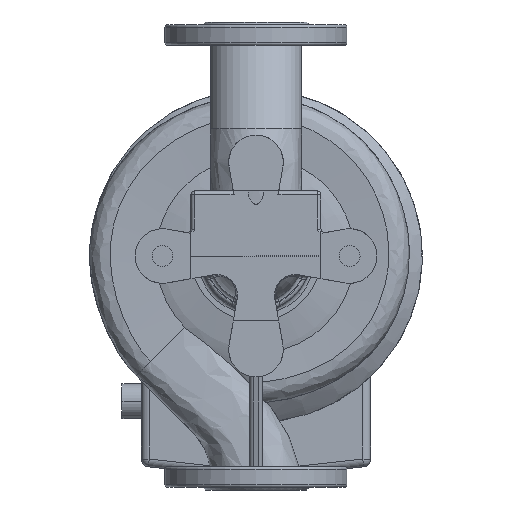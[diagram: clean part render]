
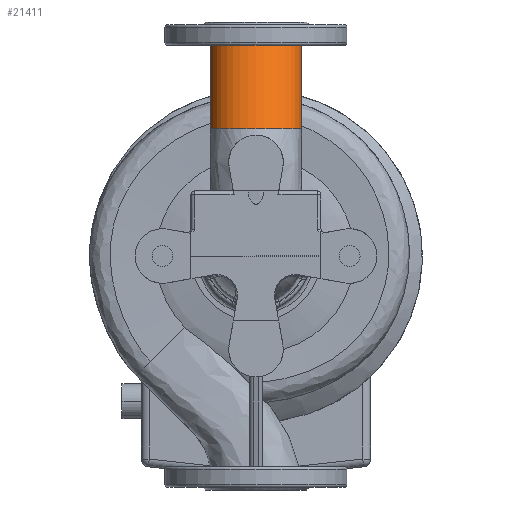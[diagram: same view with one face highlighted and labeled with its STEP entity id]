
A CAD part, front view. The second image highlights one B-rep face of the part: STEP entity #21411.
In plain terms, the highlighted free-form (B-spline) face has degree [3, 1] with [7, 2] control points.
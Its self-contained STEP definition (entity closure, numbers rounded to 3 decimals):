
#140 = CARTESIAN_POINT ( 'NONE',  ( 35., 0., 162. ) ) ;
#222 = B_SPLINE_CURVE_WITH_KNOTS ( 'NONE', 1,
 ( #6000, #9930 ),
 .UNSPECIFIED., .F., .F.,
 ( 2, 2 ),
 ( 0., 1. ),
 .UNSPECIFIED. ) ;
#280 = CARTESIAN_POINT ( 'NONE',  ( -35., -44.909, 97.864 ) ) ;
#337 = EDGE_CURVE ( 'NONE', #4610, #10266, #24713, .T. ) ;
#652 = CARTESIAN_POINT ( 'NONE',  ( -35., -44.909, 97.864 ) ) ;
#670 = CARTESIAN_POINT ( 'NONE',  ( 35., -44.909, 97.864 ) ) ;
#2302 = CARTESIAN_POINT ( 'NONE',  ( -35., -114.909, 97.864 ) ) ;
#2693 = CARTESIAN_POINT ( 'NONE',  ( -35., 70., 162. ) ) ;
#4324 = CARTESIAN_POINT ( 'NONE',  ( -35., 0., 162. ) ) ;
#4610 = VERTEX_POINT ( 'NONE', #652 ) ;
#4727 = CARTESIAN_POINT ( 'NONE',  ( 35., -114.909, 97.864 ) ) ;
#5287 = CARTESIAN_POINT ( 'NONE',  ( -35., 0., 162. ) ) ;
#5392 = DIRECTION ( 'NONE',  ( 0., 0., -1. ) ) ;
#5871 = EDGE_CURVE ( 'NONE', #6154, #10266, #15761, .T. ) ;
#6000 = CARTESIAN_POINT ( 'NONE',  ( 35., -44.909, 97.864 ) ) ;
#6154 = VERTEX_POINT ( 'NONE', #20975 ) ;
#6500 = CARTESIAN_POINT ( 'NONE',  ( 35., 70., 162. ) ) ;
#7098 = ORIENTED_EDGE ( 'NONE', *, *, #5871, .T. ) ;
#8680 = AXIS2_PLACEMENT_3D ( 'NONE', #9589, #5392, #26244 ) ;
#8934 = CARTESIAN_POINT ( 'NONE',  ( -35., -70., 162. ) ) ;
#9589 = CARTESIAN_POINT ( 'NONE',  ( 0., -44.909, 97.864 ) ) ;
#9930 = CARTESIAN_POINT ( 'NONE',  ( 35., 0., 162. ) ) ;
#10266 = VERTEX_POINT ( 'NONE', #5287 ) ;
#10587 = DIRECTION ( 'NONE',  ( 0., 0., -1. ) ) ;
#12596 = CARTESIAN_POINT ( 'NONE',  ( 0., 0., 162. ) ) ;
#12970 = CARTESIAN_POINT ( 'NONE',  ( -35., 0., 162. ) ) ;
#14008 = AXIS2_PLACEMENT_3D ( 'NONE', #12596, #10587, #18855 ) ;
#14141 = CARTESIAN_POINT ( 'NONE',  ( -35., -44.909, 97.864 ) ) ;
#14427 = ORIENTED_EDGE ( 'NONE', *, *, #19510, .T. ) ;
#14611 = ORIENTED_EDGE ( 'NONE', *, *, #337, .F. ) ;
#15137 = CARTESIAN_POINT ( 'NONE',  ( -35., 25.091, 97.864 ) ) ;
#15311 = VERTEX_POINT ( 'NONE', #19698 ) ;
#15761 = CIRCLE ( 'NONE', #14008, 35. ) ;
#15858 = EDGE_LOOP ( 'NONE', ( #24885, #14427, #7098, #14611 ) ) ;
#16183 = CARTESIAN_POINT ( 'NONE',  ( -35., 0., 162. ) ) ;
#16882 = CIRCLE ( 'NONE', #8680, 35. ) ;
#16911 = CARTESIAN_POINT ( 'NONE',  ( -35., -44.909, 97.864 ) ) ;
#17097 =( BOUNDED_SURFACE ( )  B_SPLINE_SURFACE ( 3, 1, ( 
 ( #280, #4324 ),
 ( #15137, #2693 ),
 ( #19215, #6500 ),
 ( #670, #140 ),
 ( #4727, #21371 ),
 ( #2302, #8934 ),
 ( #16911, #12970 ) ),
 .UNSPECIFIED., .T., .F., .F. ) 
 B_SPLINE_SURFACE_WITH_KNOTS ( ( 4, 3, 4 ),
 ( 2, 2 ),
 ( 0., 0.5, 1. ),
 ( 0., 1. ),
 .UNSPECIFIED. ) 
 GEOMETRIC_REPRESENTATION_ITEM ( )  RATIONAL_B_SPLINE_SURFACE ( (
 ( 1., 1.),
 ( 0.333, 0.333),
 ( 0.333, 0.333),
 ( 1., 1.),
 ( 0.333, 0.333),
 ( 0.333, 0.333),
 ( 1., 1.) ) ) 
 REPRESENTATION_ITEM ( '' )  SURFACE ( )  );
#17188 = FACE_OUTER_BOUND ( 'NONE', #15858, .T. ) ;
#18513 = EDGE_CURVE ( 'NONE', #15311, #4610, #16882, .T. ) ;
#18855 = DIRECTION ( 'NONE',  ( -1., 0., 0. ) ) ;
#19215 = CARTESIAN_POINT ( 'NONE',  ( 35., 25.091, 97.864 ) ) ;
#19510 = EDGE_CURVE ( 'NONE', #15311, #6154, #222, .T. ) ;
#19698 = CARTESIAN_POINT ( 'NONE',  ( 35., -44.909, 97.864 ) ) ;
#20975 = CARTESIAN_POINT ( 'NONE',  ( 35., 0., 162. ) ) ;
#21371 = CARTESIAN_POINT ( 'NONE',  ( 35., -70., 162. ) ) ;
#21411 = ADVANCED_FACE ( 'NONE', ( #17188 ), #17097, .F. ) ;
#24713 = B_SPLINE_CURVE_WITH_KNOTS ( 'NONE', 1,
 ( #14141, #16183 ),
 .UNSPECIFIED., .F., .F.,
 ( 2, 2 ),
 ( 0., 1. ),
 .UNSPECIFIED. ) ;
#24885 = ORIENTED_EDGE ( 'NONE', *, *, #18513, .F. ) ;
#26244 = DIRECTION ( 'NONE',  ( -1., 0., 0. ) ) ;
